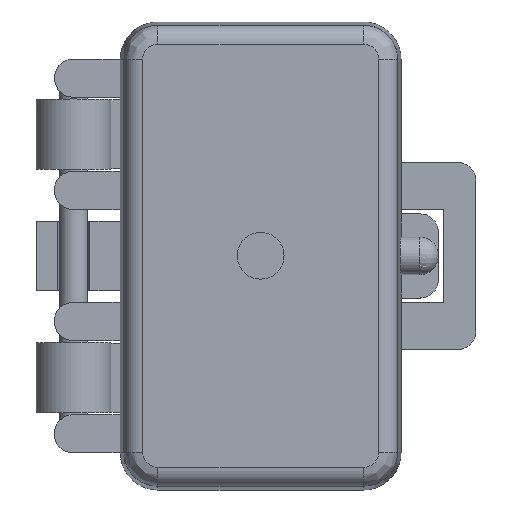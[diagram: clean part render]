
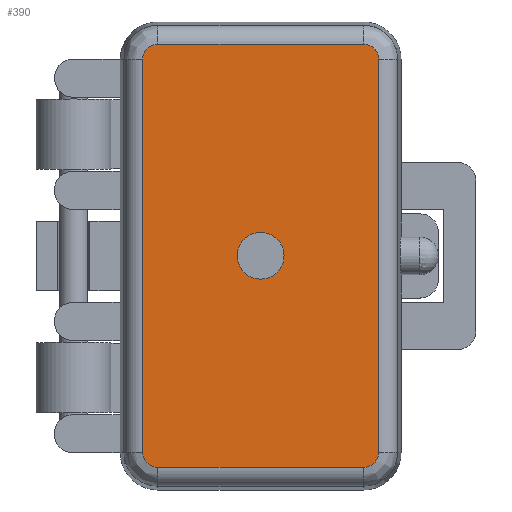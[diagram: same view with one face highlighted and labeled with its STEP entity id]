
A CAD part, top view. The second image highlights one B-rep face of the part: STEP entity #390.
In plain terms, the highlighted planar face has unit normal (0, 0, 1).
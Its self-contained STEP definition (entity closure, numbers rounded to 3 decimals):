
#195=FACE_BOUND('',#912,.T.);
#196=FACE_BOUND('',#913,.T.);
#246=CIRCLE('',#3672,2.5);
#247=CIRCLE('',#3673,1.615);
#248=CIRCLE('',#3674,1.615);
#249=CIRCLE('',#3675,1.615);
#250=CIRCLE('',#3676,1.615);
#390=ADVANCED_FACE('',(#195,#196),#589,.T.);
#589=PLANE('',#3677);
#912=EDGE_LOOP('',(#1307));
#913=EDGE_LOOP('',(#1308,#1309,#1310,#1311,#1312,#1313,#1314,#1315));
#1307=ORIENTED_EDGE('',*,*,#2586,.F.);
#1308=ORIENTED_EDGE('',*,*,#2587,.T.);
#1309=ORIENTED_EDGE('',*,*,#2588,.T.);
#1310=ORIENTED_EDGE('',*,*,#2589,.T.);
#1311=ORIENTED_EDGE('',*,*,#2590,.T.);
#1312=ORIENTED_EDGE('',*,*,#2591,.T.);
#1313=ORIENTED_EDGE('',*,*,#2592,.T.);
#1314=ORIENTED_EDGE('',*,*,#2593,.T.);
#1315=ORIENTED_EDGE('',*,*,#2594,.T.);
#2238=VERTEX_POINT('',#5509);
#2239=VERTEX_POINT('',#5511);
#2240=VERTEX_POINT('',#5512);
#2241=VERTEX_POINT('',#5514);
#2242=VERTEX_POINT('',#5516);
#2243=VERTEX_POINT('',#5518);
#2244=VERTEX_POINT('',#5520);
#2245=VERTEX_POINT('',#5522);
#2246=VERTEX_POINT('',#5524);
#2586=EDGE_CURVE('',#2238,#2238,#246,.T.);
#2587=EDGE_CURVE('',#2239,#2240,#3031,.T.);
#2588=EDGE_CURVE('',#2240,#2241,#247,.T.);
#2589=EDGE_CURVE('',#2241,#2242,#3032,.T.);
#2590=EDGE_CURVE('',#2242,#2243,#248,.T.);
#2591=EDGE_CURVE('',#2243,#2244,#3033,.T.);
#2592=EDGE_CURVE('',#2244,#2245,#249,.T.);
#2593=EDGE_CURVE('',#2245,#2246,#3034,.T.);
#2594=EDGE_CURVE('',#2246,#2239,#250,.T.);
#3031=LINE('',#5510,#3352);
#3032=LINE('',#5515,#3353);
#3033=LINE('',#5519,#3354);
#3034=LINE('',#5523,#3355);
#3352=VECTOR('',#4205,1.);
#3353=VECTOR('',#4208,1.);
#3354=VECTOR('',#4211,1.);
#3355=VECTOR('',#4214,1.);
#3672=AXIS2_PLACEMENT_3D('',#5508,#4203,#4204);
#3673=AXIS2_PLACEMENT_3D('',#5513,#4206,#4207);
#3674=AXIS2_PLACEMENT_3D('',#5517,#4209,#4210);
#3675=AXIS2_PLACEMENT_3D('',#5521,#4212,#4213);
#3676=AXIS2_PLACEMENT_3D('',#5525,#4215,#4216);
#3677=AXIS2_PLACEMENT_3D('',#5526,#4217,#4218);
#4203=DIRECTION('',(0.,0.,1.));
#4204=DIRECTION('',(0.,1.,0.));
#4205=DIRECTION('',(0.,-1.,0.));
#4206=DIRECTION('',(0.,0.,1.));
#4207=DIRECTION('',(1.,0.,0.));
#4208=DIRECTION('',(1.,0.,0.));
#4209=DIRECTION('',(0.,0.,1.));
#4210=DIRECTION('',(1.,0.,0.));
#4211=DIRECTION('',(0.,1.,0.));
#4212=DIRECTION('',(0.,0.,1.));
#4213=DIRECTION('',(1.,0.,0.));
#4214=DIRECTION('',(-1.,0.,0.));
#4215=DIRECTION('',(0.,0.,1.));
#4216=DIRECTION('',(1.,0.,0.));
#4217=DIRECTION('',(0.,0.,1.));
#4218=DIRECTION('',(1.,0.,0.));
#5508=CARTESIAN_POINT('',(0.,0.,15.));
#5509=CARTESIAN_POINT('',(0.,2.5,15.));
#5510=CARTESIAN_POINT('',(-12.615,-21.,15.));
#5511=CARTESIAN_POINT('',(-12.615,21.,15.));
#5512=CARTESIAN_POINT('',(-12.615,-21.,15.));
#5513=CARTESIAN_POINT('',(-11.,-21.,15.));
#5514=CARTESIAN_POINT('',(-11.,-22.615,15.));
#5515=CARTESIAN_POINT('',(11.,-22.615,15.));
#5516=CARTESIAN_POINT('',(11.,-22.615,15.));
#5517=CARTESIAN_POINT('',(11.,-21.,15.));
#5518=CARTESIAN_POINT('',(12.615,-21.,15.));
#5519=CARTESIAN_POINT('',(12.615,21.,15.));
#5520=CARTESIAN_POINT('',(12.615,21.,15.));
#5521=CARTESIAN_POINT('',(11.,21.,15.));
#5522=CARTESIAN_POINT('',(11.,22.615,15.));
#5523=CARTESIAN_POINT('',(-11.,22.615,15.));
#5524=CARTESIAN_POINT('',(-11.,22.615,15.));
#5525=CARTESIAN_POINT('',(-11.,21.,15.));
#5526=CARTESIAN_POINT('',(-11.,-21.,15.));
